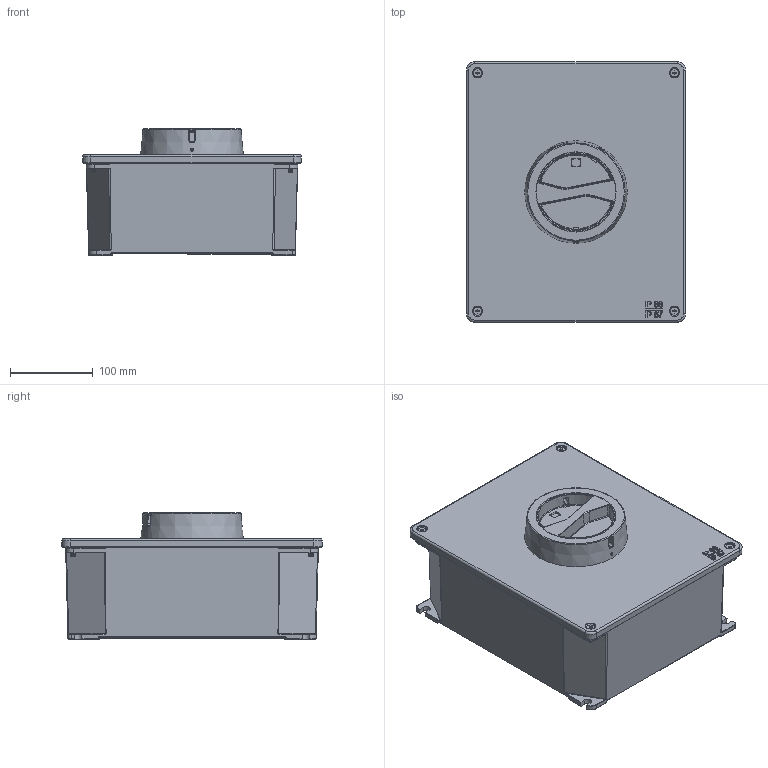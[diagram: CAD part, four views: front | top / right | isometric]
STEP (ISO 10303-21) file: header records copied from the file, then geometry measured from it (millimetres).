
FILE_DESCRIPTION(/* description */ (''),/* implementation_level */ '2;1');
FILE_NAME(/* name */ '4002896.stp',/* time_stamp */ '2020-11-11T08:10:05+01:00',/* author */ (''),/* organization */ (''),/* preprocessor_version */ 'ST-DEVELOPER v16.7',/* originating_system */ 'SIEMENS PLM Software NX 1942',/* authorisation */ '');
FILE_SCHEMA (('AUTOMOTIVE_DESIGN { 1 0 10303 214 3 1 1 1 }'));
Products named in the file (1): BSOM28F40CF2mets
Bounding box: 264.51 x 314.51 x 153 mm (x, y, z)
Volume: 982919 mm3; surface area: 683285.2 mm2
Topology: 9 solids, 9 shells, 2365 faces, 5938 edges, 3668 vertices
Faces by surface type: plane 1024, cylinder 513, bspline 456, torus 164, cone 132, sphere 72, extrusion 4
Full cylindrical faces by diameter (mm): 2.8 x1, 3.026 x3, 3.1 x1, 4 x4, 4.917 x4, 5.5 x1, 6 x1, 7 x4, 12 x1, 12.5 x4, 20 x1, 21 x1, 25.4 x1, 28 x1, 60 x1
Entity records: 109609 total; most frequent: CARTESIAN_POINT 56915, ORIENTED_EDGE 11438, DIRECTION 9941, EDGE_CURVE 5719, VERTEX_POINT 3614, AXIS2_PLACEMENT_3D 3527, VECTOR 2887, LINE 2883
